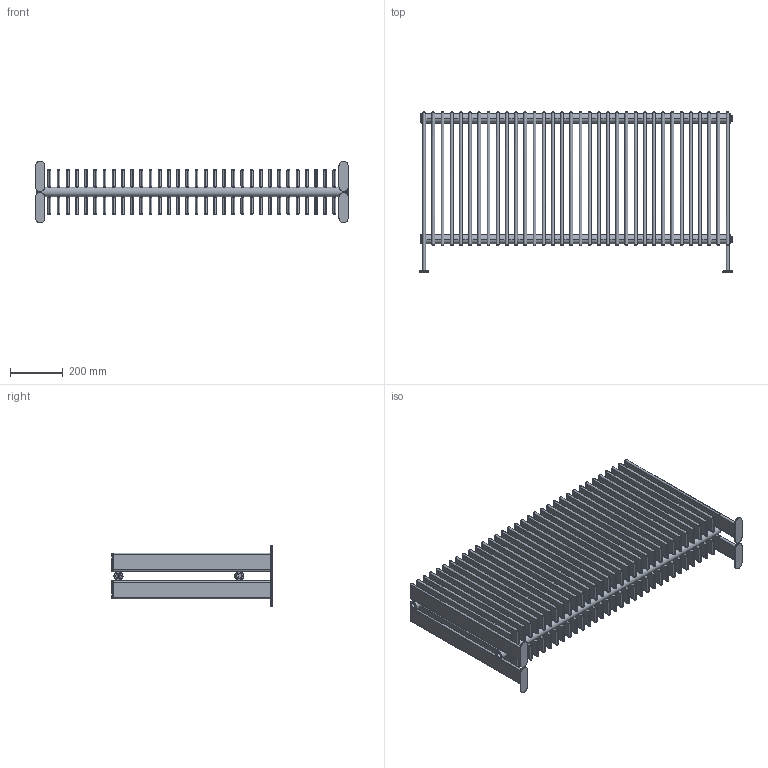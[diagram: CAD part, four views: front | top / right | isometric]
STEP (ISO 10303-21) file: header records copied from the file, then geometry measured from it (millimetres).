
FILE_DESCRIPTION (( 'STEP AP203' ), '1' );
FILE_NAME ('CDP34D610.STEP', '2026-03-06T12:40:25', ( '' ), ( '' ), 'SwSTEP 2.0', 'SolidWorks 2025', '' );
FILE_SCHEMA (( 'CONFIG_CONTROL_DESIGN' ));
Length unit declared in the file: millimetre
Products named in the file (6): COLLETTORE INT 35 [Con configurazioni]_1180; tappo_sfiato.prt; TRAVERSINO CONDOR PLUS_610; TRAVERSINO PIATTO 70 CONDOR-SHELF [Con configurazioni]_510; CDP34D610; tappo_sx.prt
Assembly tree (74 placements, depth 2):
  CDP34D610
    COLLETTORE INT 35 [Con configurazioni]_1180  x2
    TRAVERSINO CONDOR PLUS_610  x4
    TRAVERSINO PIATTO 70 CONDOR-SHELF [Con configurazioni]_510  x66
    tappo_sfiato.prt
    tappo_sx.prt
Bounding box: 1190.9 x 610 x 234 mm (x, y, z)
Volume: 8507110.9 mm3; surface area: 11270632.2 mm2
Topology: 72 solids, 80 shells, 2845 faces, 7148 edges, 3925 vertices
Faces by surface type: cylinder 1300, plane 638, bspline 593, torus 312, cone 2
Entity records: 26473 total; most frequent: CARTESIAN_POINT 17025, ORIENTED_EDGE 1736, DIRECTION 1018, EDGE_CURVE 872, B_SPLINE_CURVE_WITH_KNOTS 583, VERTEX_POINT 513, AXIS2_PLACEMENT_3D 405, EDGE_LOOP 328
